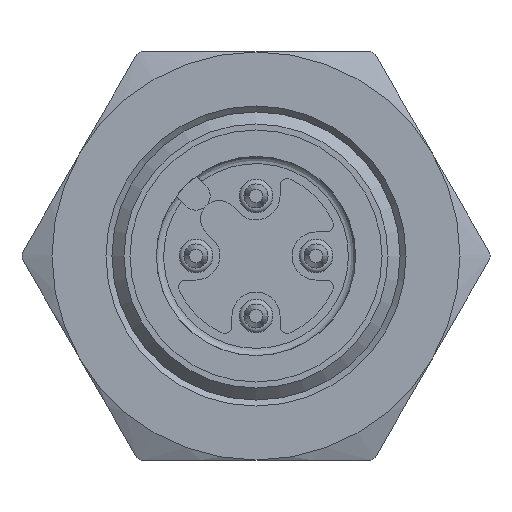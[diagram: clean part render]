
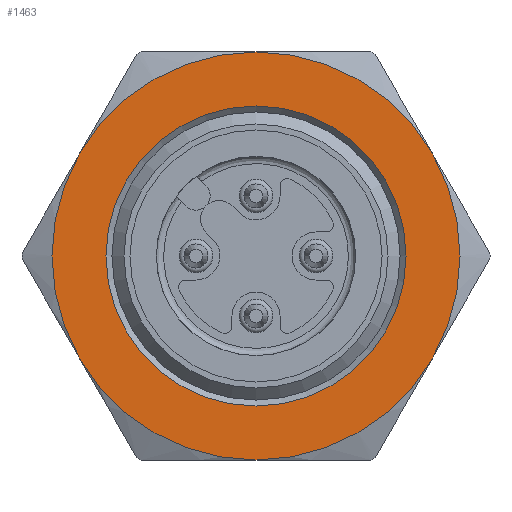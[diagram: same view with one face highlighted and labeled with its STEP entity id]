
A CAD part, front view. The second image highlights one B-rep face of the part: STEP entity #1463.
In plain terms, the highlighted planar face has unit normal (0, -1, 0).
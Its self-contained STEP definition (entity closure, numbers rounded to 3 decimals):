
#1348=CARTESIAN_POINT('',(5.413,18.939,-3.125));
#1349=VERTEX_POINT('',#1348);
#1350=CARTESIAN_POINT('',(0.,18.939,0.));
#1351=DIRECTION('',(0.,-1.,0.));
#1352=DIRECTION('',(-0.866,0.,0.5));
#1353=AXIS2_PLACEMENT_3D('',#1350,#1351,#1352);
#1354=CIRCLE('',#1353,6.25);
#1355=EDGE_CURVE('',#1349,#1349,#1354,.T.);
#1399=CARTESIAN_POINT('',(6.062,18.939,-3.5));
#1400=DIRECTION('',(0.0,-1.0,0.0));
#1401=DIRECTION('',(0.5,0.0,0.866));
#1402=AXIS2_PLACEMENT_3D('',#1399,#1400,#1401);
#1403=PLANE('',#1402);
#1404=CARTESIAN_POINT('',(7.361,18.939,-4.25));
#1405=VERTEX_POINT('',#1404);
#1406=CARTESIAN_POINT('',(7.361,18.939,4.25));
#1407=VERTEX_POINT('',#1406);
#1408=CARTESIAN_POINT('',(0.,18.939,0.));
#1409=DIRECTION('',(0.,-1.0,0.));
#1410=DIRECTION('',(0.866,0.,-0.5));
#1411=AXIS2_PLACEMENT_3D('',#1408,#1409,#1410);
#1412=CIRCLE('',#1411,8.5);
#1413=EDGE_CURVE('',#1405,#1407,#1412,.T.);
#1414=ORIENTED_EDGE('',*,*,#1413,.T.);
#1415=CARTESIAN_POINT('',(0.,18.939,8.5));
#1416=VERTEX_POINT('',#1415);
#1417=CARTESIAN_POINT('',(0.,18.939,0.));
#1418=DIRECTION('',(0.,-1.0,0.));
#1419=DIRECTION('',(0.866,0.,-0.5));
#1420=AXIS2_PLACEMENT_3D('',#1417,#1418,#1419);
#1421=CIRCLE('',#1420,8.5);
#1422=EDGE_CURVE('',#1407,#1416,#1421,.T.);
#1423=ORIENTED_EDGE('',*,*,#1422,.T.);
#1424=CARTESIAN_POINT('',(-7.361,18.939,4.25));
#1425=VERTEX_POINT('',#1424);
#1426=CARTESIAN_POINT('',(0.,18.939,0.));
#1427=DIRECTION('',(0.,-1.0,0.));
#1428=DIRECTION('',(0.866,0.,-0.5));
#1429=AXIS2_PLACEMENT_3D('',#1426,#1427,#1428);
#1430=CIRCLE('',#1429,8.5);
#1431=EDGE_CURVE('',#1416,#1425,#1430,.T.);
#1432=ORIENTED_EDGE('',*,*,#1431,.T.);
#1433=CARTESIAN_POINT('',(-7.361,18.939,-4.25));
#1434=VERTEX_POINT('',#1433);
#1435=CARTESIAN_POINT('',(0.,18.939,0.));
#1436=DIRECTION('',(0.,-1.0,0.));
#1437=DIRECTION('',(0.866,0.,-0.5));
#1438=AXIS2_PLACEMENT_3D('',#1435,#1436,#1437);
#1439=CIRCLE('',#1438,8.5);
#1440=EDGE_CURVE('',#1425,#1434,#1439,.T.);
#1441=ORIENTED_EDGE('',*,*,#1440,.T.);
#1442=CARTESIAN_POINT('',(0.,18.939,-8.5));
#1443=VERTEX_POINT('',#1442);
#1444=CARTESIAN_POINT('',(0.,18.939,0.));
#1445=DIRECTION('',(0.,-1.0,0.));
#1446=DIRECTION('',(0.866,0.,-0.5));
#1447=AXIS2_PLACEMENT_3D('',#1444,#1445,#1446);
#1448=CIRCLE('',#1447,8.5);
#1449=EDGE_CURVE('',#1434,#1443,#1448,.T.);
#1450=ORIENTED_EDGE('',*,*,#1449,.T.);
#1451=CARTESIAN_POINT('',(0.,18.939,0.));
#1452=DIRECTION('',(0.,-1.0,0.));
#1453=DIRECTION('',(0.866,0.,-0.5));
#1454=AXIS2_PLACEMENT_3D('',#1451,#1452,#1453);
#1455=CIRCLE('',#1454,8.5);
#1456=EDGE_CURVE('',#1443,#1405,#1455,.T.);
#1457=ORIENTED_EDGE('',*,*,#1456,.T.);
#1458=EDGE_LOOP('',(#1414,#1423,#1432,#1441,#1450,#1457));
#1459=FACE_OUTER_BOUND('',#1458,.T.);
#1460=ORIENTED_EDGE('',*,*,#1355,.F.);
#1461=EDGE_LOOP('',(#1460));
#1462=FACE_BOUND('',#1461,.T.);
#1463=ADVANCED_FACE('',(#1459,#1462),#1403,.T.);
